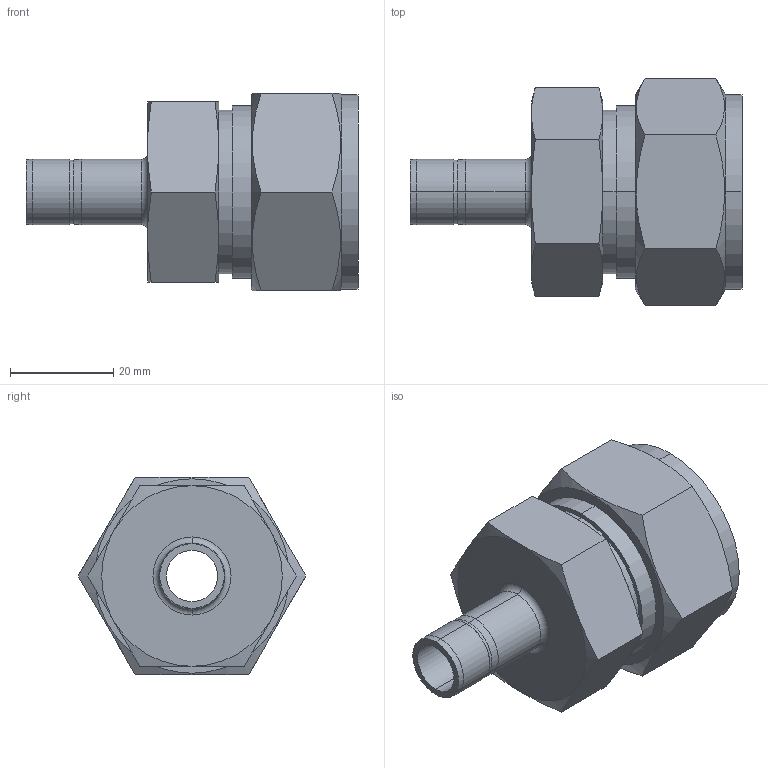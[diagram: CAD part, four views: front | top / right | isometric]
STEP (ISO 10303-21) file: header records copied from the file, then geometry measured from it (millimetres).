
FILE_DESCRIPTION (( 'STEP AP203' ), '1' );
FILE_NAME ('DRE16-08 SS.STEP', '2009-09-08T08:39:00', ( ' ' ), ( '' ), 'SwSTEP 2.0', 'SolidWorks 2008', '' );
FILE_SCHEMA (( 'CONFIG_CONTROL_DESIGN' ));
Length unit declared in the file: millimetre
Products named in the file (1): DRE16-08 SS
Bounding box: 64.2 x 43.99 x 38.1 mm (x, y, z)
Volume: 28424.3 mm3; surface area: 12173.7 mm2
Topology: 1 solids, 1 shells, 63 faces, 138 edges, 82 vertices
Faces by surface type: cone 24, plane 19, cylinder 18, torus 2
Entity records: 1997 total; most frequent: CARTESIAN_POINT 572, DIRECTION 282, ORIENTED_EDGE 276, EDGE_CURVE 138, AXIS2_PLACEMENT_3D 120, VERTEX_POINT 82, EDGE_LOOP 70, ADVANCED_FACE 63
